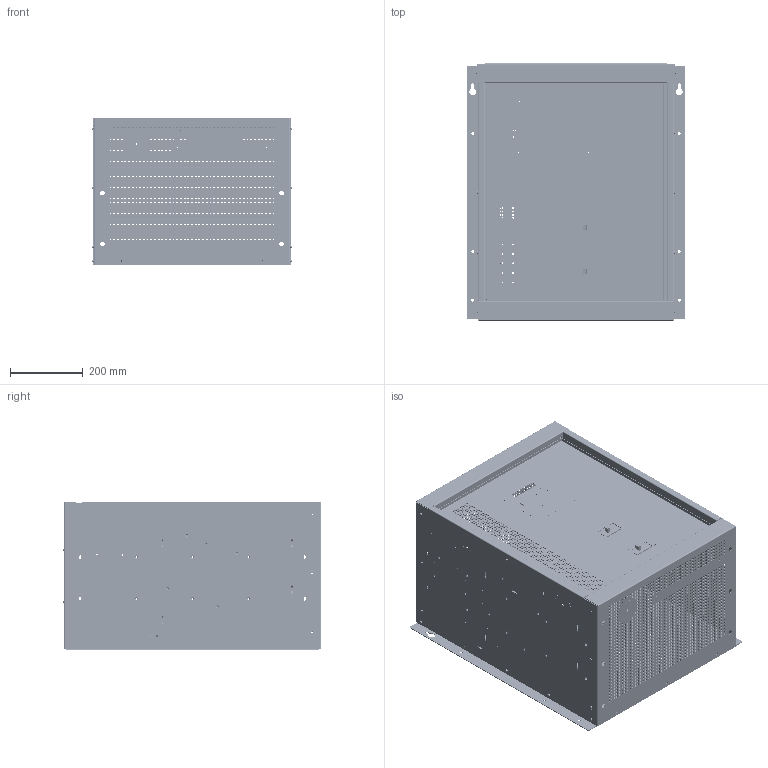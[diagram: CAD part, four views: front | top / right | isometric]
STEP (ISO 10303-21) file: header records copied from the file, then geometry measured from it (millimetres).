
FILE_DESCRIPTION (( 'STEP AP214' ), '1' );
FILE_NAME ('3DCAD-Q2-WALL MOUNT-STEP_REVA.STEP', '2014-04-03T20:00:37', ( 'barrye' ), ( '' ), 'SwSTEP 2.0', 'SolidWorks 2012', '' );
FILE_SCHEMA (( 'AUTOMOTIVE_DESIGN' ));
Length unit declared in the file: inch
Products named in the file (13): 932029_93882A193; 83-05-01; 83-05-01_reinforce-channel-M2_old; 83-02-02; q2_master_door_3D CAD BLANK DOOR; 808560; 83-04-01; q2_master_breaker_panel_BREAKERS ONLY; breaker_squared_fal_2_pole_assy; breaker_squared_fal_2_pole_part; 83-01-02; 3DCAD-Q2-WALL MOUNT-STEP_REVA
Assembly tree (34 placements, depth 4):
  3DCAD-Q2-WALL MOUNT-STEP_REVA
    83-01-02
    q2_master_breaker_panel_BREAKERS ONLY
      breaker_squared_fal_2_pole_assy  x2
        breaker_squared_fal_2_pole_part
    q2_master_door_3D CAD BLANK DOOR
      83-04-01
      808560
    83-02-02
    83-05-01
      83-05-01
      83-05-01_reinforce-channel-M2_old
    932029_93882A193  x22
Bounding box: 598.17 x 707.1 x 408.42 mm (x, y, z)
Volume: 5449453.5 mm3; surface area: 4173022.5 mm2
Topology: 58 solids, 58 shells, 16584 faces, 48352 edges, 32162 vertices
Faces by surface type: plane 14426, bspline 951, cylinder 909, cone 202, torus 96
Full cylindrical faces by diameter (mm): 0.127 x4, 1.016 x2, 2.438 x1, 2.896 x5, 2.9 x1, 2.997 x11, 3.175 x2, 3.75 x4, 3.922 x4, 3.937 x4, 3.988 x11, 4.14 x6, 4.3 x36, 4.305 x2, 4.318 x1, 4.496 x27, 4.775 x7, 4.801 x3, 4.826 x2, 5.08 x4, 5.156 x5, 5.385 x6, 5.41 x17, 5.537 x8, 5.634 x1, 5.944 x11, 6.02 x4, 6.502 x5, 6.731 x2, 7.112 x1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
Entity records: 552500 total; most frequent: CARTESIAN_POINT 118572, ORIENTED_EDGE 89078, DIRECTION 75069, EDGE_CURVE 44539, VECTOR 42045, LINE 42045, VERTEX_POINT 29838, EDGE_LOOP 22743
